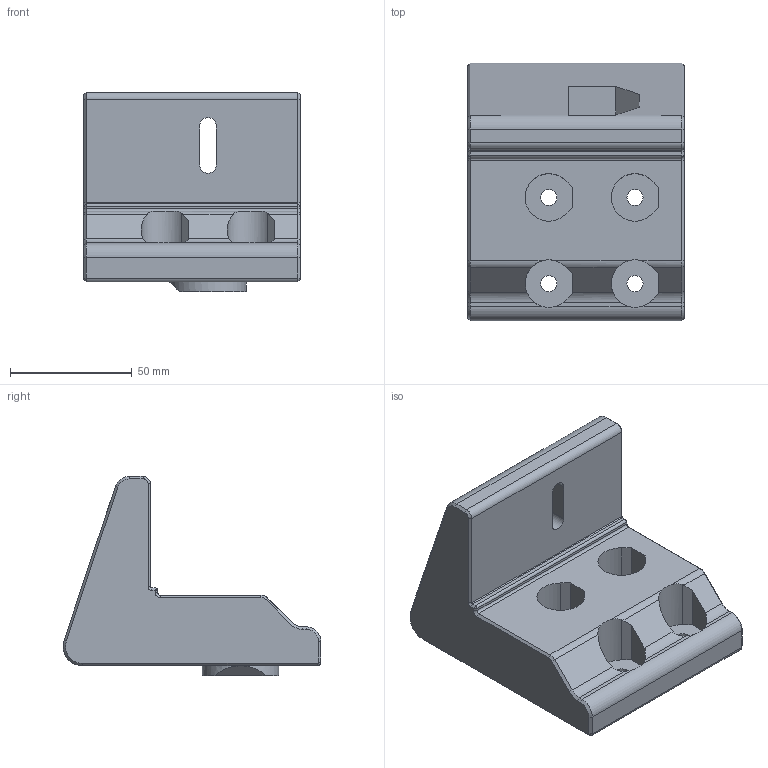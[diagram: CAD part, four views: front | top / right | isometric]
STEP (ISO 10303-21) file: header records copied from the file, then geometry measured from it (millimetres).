
FILE_DESCRIPTION(('Open CASCADE Model'),'2;1');
FILE_NAME('Open CASCADE Shape Model','2026-11-27T16:19:04',('Author'),( 'Open CASCADE'),'Open CASCADE STEP processor 7.9','Open CASCADE 7.9' ,'Unknown');
FILE_SCHEMA(('AUTOMOTIVE_DESIGN { 1 0 10303 214 1 1 1 1 }'));
Length unit declared in the file: millimetre
Products named in the file (1): Open CASCADE STEP translator 7.9 1
Bounding box: 88.9 x 105.89 x 81.75 mm (x, y, z)
Volume: 304734.3 mm3; surface area: 43213.4 mm2
Topology: 1 solids, 1 shells, 110 faces, 274 edges, 167 vertices
Faces by surface type: plane 64, cylinder 26, cone 20
Full cylindrical faces by diameter (mm): 6 x1, 6.6 x4, 31.4 x1
Entity records: 7110 total; most frequent: CARTESIAN_POINT 1805, DIRECTION 938, ORIENTED_EDGE 544, PCURVE 544, DEFINITIONAL_REPRESENTATION 544, LINE 517, VECTOR 517, EDGE_CURVE 272
